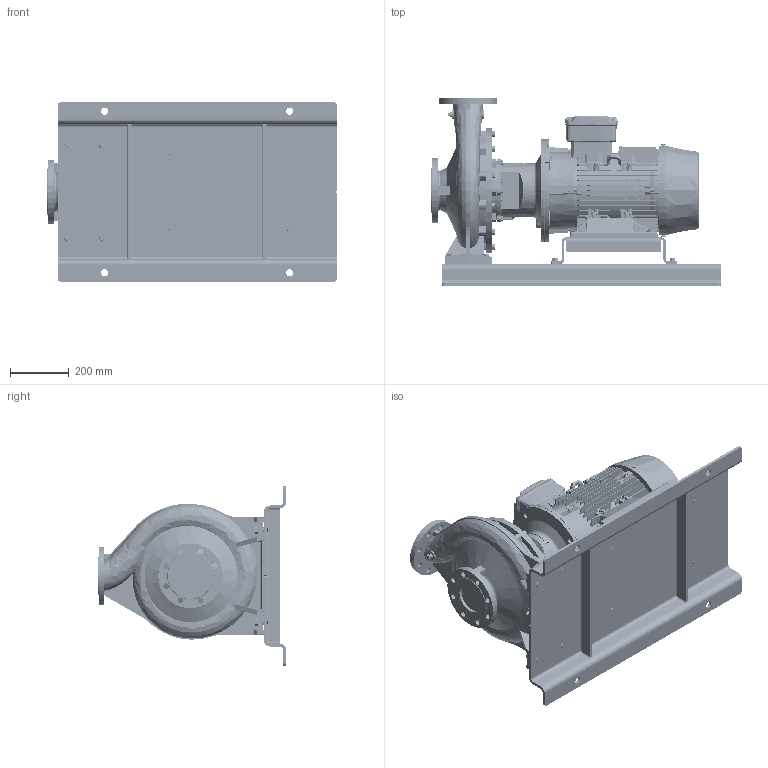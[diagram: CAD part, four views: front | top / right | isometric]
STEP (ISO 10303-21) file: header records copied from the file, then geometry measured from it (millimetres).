
FILE_DESCRIPTION (( 'STEP AP214' ), '1' );
FILE_NAME ('GSD4 80-315_11.0 & 15.0_(160ML)_W21_BP.STEP', '2026-05-08T06:40:10', ( '' ), ( '' ), 'SwSTEP 2.0', 'SolidWorks 2024', '' );
FILE_SCHEMA (( 'AUTOMOTIVE_DESIGN' ));
Length unit declared in the file: millimetre
Products named in the file (13): Parametric bolt_SFT-A297B; GSD4 80-315_11.0 & 15.0_(160ML)_W21_BP; CGS11-5254; Parametric bolt and washer_SFT-A297B; Parametric bolt_SFT-A353B; Parametric Flat Washer_M16; Parametric bolt_SFT-A303B; Parametric Flat Washer_M12; N7S3 GSDA-733 F1-1832946-00; Parametric bolt and washer_SFT-A303B; Parametric bolt and washer_SFT-A353B; 160M_L_ALIE3_W21T_B35; 80-315-160M_L_ﾃﾞﾌｫﾙﾄ
Assembly tree (22 placements, depth 3):
  GSD4 80-315_11.0 & 15.0_(160ML)_W21_BP
    80-315-160M_L_ﾃﾞﾌｫﾙﾄ
    N7S3 GSDA-733 F1-1832946-00
    CGS11-5254
    Parametric bolt and washer_SFT-A353B  x4
      Parametric bolt_SFT-A353B
      Parametric Flat Washer_M16
    Parametric bolt and washer_SFT-A297B  x4
      Parametric bolt_SFT-A297B
      Parametric Flat Washer_M12
    Parametric bolt and washer_SFT-A303B  x4
      Parametric bolt_SFT-A303B
      Parametric Flat Washer_M12
    160M_L_ALIE3_W21T_B35
Bounding box: 985 x 640 x 610 mm (x, y, z)
Volume: 65557471.5 mm3; surface area: 5162172.3 mm2
Topology: 64 solids, 70 shells, 6665 faces, 17218 edges, 11127 vertices
Faces by surface type: plane 3897, cylinder 1413, cone 634, bspline 460, torus 245, sphere 16
Entity records: 242875 total; most frequent: CARTESIAN_POINT 99521, ORIENTED_EDGE 31412, DIRECTION 26623, EDGE_CURVE 15706, VERTEX_POINT 10158, VECTOR 9849, LINE 9849, AXIS2_PLACEMENT_3D 8387
